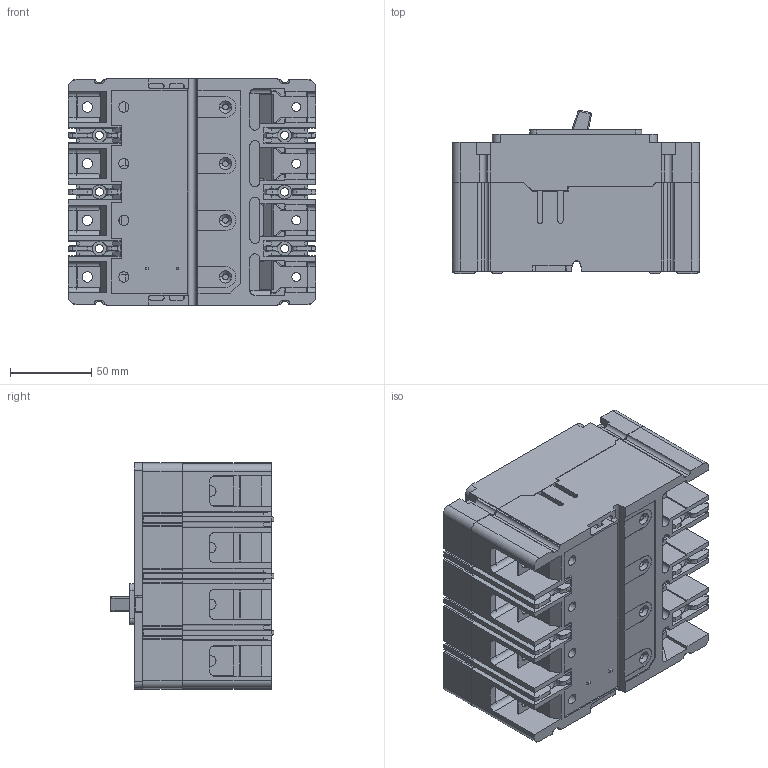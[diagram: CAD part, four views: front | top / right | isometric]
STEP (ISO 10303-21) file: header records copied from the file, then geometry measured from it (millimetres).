
FILE_DESCRIPTION((''),'2;1');
FILE_NAME('KELLY_FD4POLE_ASM','2006-06-20T',('e0027238'),(''),'PRO/ENGINEER BY PARAMETRIC TECHNOLOGY CORPORATION, 2005030','PRO/ENGINEER BY PARAMETRIC TECHNOLOGY CORPORATION, 2005030','');
FILE_SCHEMA(('CONFIG_CONTROL_DESIGN'));
Length unit declared in the file: inch
Products named in the file (27): 1490D04_AF0; 6640C21H10_AF0; 6648C01G25_AF0; 4220B61_G02_AF0_ASM; 6640C21H10_AF1; 6648C01G25_AF1; 4220B61_G02_AF1_ASM; 6640C21H10_AF2; 6648C01G25_AF2; 4220B61_G02_AF2_ASM; 6640C21H10_AF3; 6648C01G25_AF3; 4220B61_G02_AF3_ASM; 6640C21H10_AF4; 6648C01G25_AF4; 4220B61_G02_AF4_ASM; 6640C24_H01_AF0; 6640C40_AF0; 6640C31_AF0; 6640C01_AF0; 1490D14_AF0; 6640C24_H01_AF1; 6640C24_H01_AF2; 6640C24_H01_AF3; 6629C51H04_AF0; 6637C16; KELLY_FD4POLE_ASM
Assembly tree (26 placements, depth 3):
  KELLY_FD4POLE_ASM
    1490D04_AF0
    4220B61_G02_AF0_ASM
      6640C21H10_AF0
      6648C01G25_AF0
    4220B61_G02_AF1_ASM
      6640C21H10_AF1
      6648C01G25_AF1
    4220B61_G02_AF2_ASM
      6640C21H10_AF2
      6648C01G25_AF2
    4220B61_G02_AF3_ASM
      6640C21H10_AF3
      6648C01G25_AF3
    4220B61_G02_AF4_ASM
      6640C21H10_AF4
      6648C01G25_AF4
    6640C24_H01_AF0
    6640C40_AF0
    6640C31_AF0
    6640C01_AF0
    1490D14_AF0
    6640C24_H01_AF1
    6640C24_H01_AF2
    6640C24_H01_AF3
    6629C51H04_AF0
    6637C16
Bounding box: 152.4 x 101.06 x 139.73 mm (x, y, z)
Volume: 599932.1 mm3; surface area: 246292 mm2
Topology: 22 solids, 22 shells, 1463 faces, 4044 edges, 2624 vertices
Faces by surface type: plane 996, cylinder 419, cone 32, torus 12, sphere 4
Entity records: 47669 total; most frequent: CARTESIAN_POINT 8770, ORIENTED_EDGE 8084, DIRECTION 7888, EDGE_CURVE 4042, VECTOR 3020, LINE 3020, VERTEX_POINT 2624, AXIS2_PLACEMENT_3D 2434
